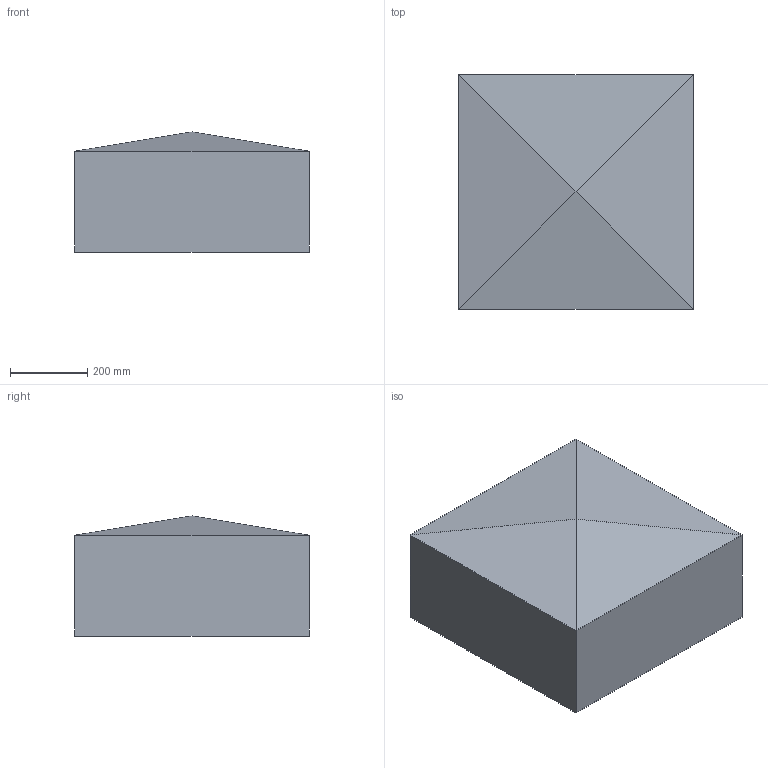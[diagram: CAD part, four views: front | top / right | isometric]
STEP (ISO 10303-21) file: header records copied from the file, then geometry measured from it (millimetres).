
FILE_DESCRIPTION(/* description */ (''),/* implementation_level */ '2;1');
FILE_NAME(/* name */ 'Z:\Output\HSDV_315-07476-001.stp',/* time_stamp */ '2017-07-11T11:08:44+02:00',/* author */ ('engineering1'),/* organization */ (''),/* preprocessor_version */ 'ST-DEVELOPER v16.5',/* originating_system */ 'Autodesk Inventor 2017',/* authorisation */ '');
FILE_SCHEMA (('AUTOMOTIVE_DESIGN { 1 0 10303 214 3 1 1 }'));
Length unit declared in the file: millimetre
Products named in the file (1): HSDV-1
Bounding box: 606 x 606 x 310 mm (x, y, z)
Volume: 101601960 mm3; surface area: 1369678.4 mm2
Topology: 1 solids, 1 shells, 9 faces, 16 edges, 9 vertices
Faces by surface type: plane 9
Entity records: 240 total; most frequent: DIRECTION 36, CARTESIAN_POINT 35, ORIENTED_EDGE 32, LINE 16, VECTOR 16, EDGE_CURVE 16, AXIS2_PLACEMENT_3D 10, FACE_OUTER_BOUND 9
